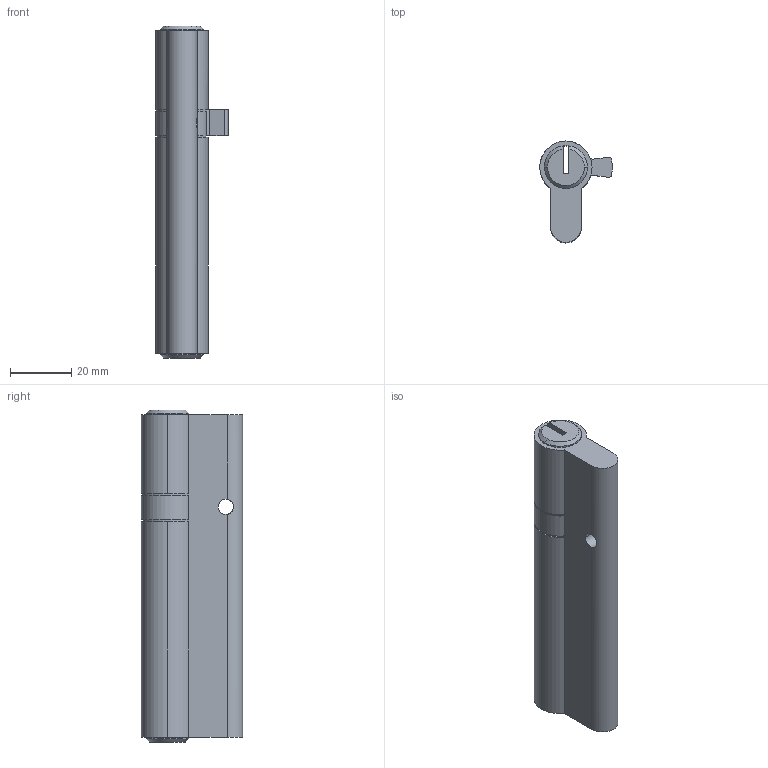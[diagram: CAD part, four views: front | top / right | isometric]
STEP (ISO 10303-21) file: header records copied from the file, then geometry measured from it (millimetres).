
FILE_DESCRIPTION (( 'STEP AP214' ), '1' );
FILE_NAME ('TPL-H-EU-524-L 29Oct2024.STEP', '2024-10-29T22:32:13', ( '' ), ( '' ), 'SwSTEP 2.0', 'SolidWorks 2023', '' );
FILE_SCHEMA (( 'AUTOMOTIVE_DESIGN' ));
Length unit declared in the file: millimetre
Products named in the file (1): TPL-H-EU-524-L 29Oct2024
Bounding box: 23.58 x 33 x 108 mm (x, y, z)
Volume: 38838.6 mm3; surface area: 12317.2 mm2
Topology: 1 solids, 1 shells, 51 faces, 141 edges, 88 vertices
Faces by surface type: cylinder 29, plane 16, cone 6
Entity records: 1740 total; most frequent: CARTESIAN_POINT 357, DIRECTION 307, ORIENTED_EDGE 282, EDGE_CURVE 141, AXIS2_PLACEMENT_3D 122, VERTEX_POINT 88, CIRCLE 70, VECTOR 63
